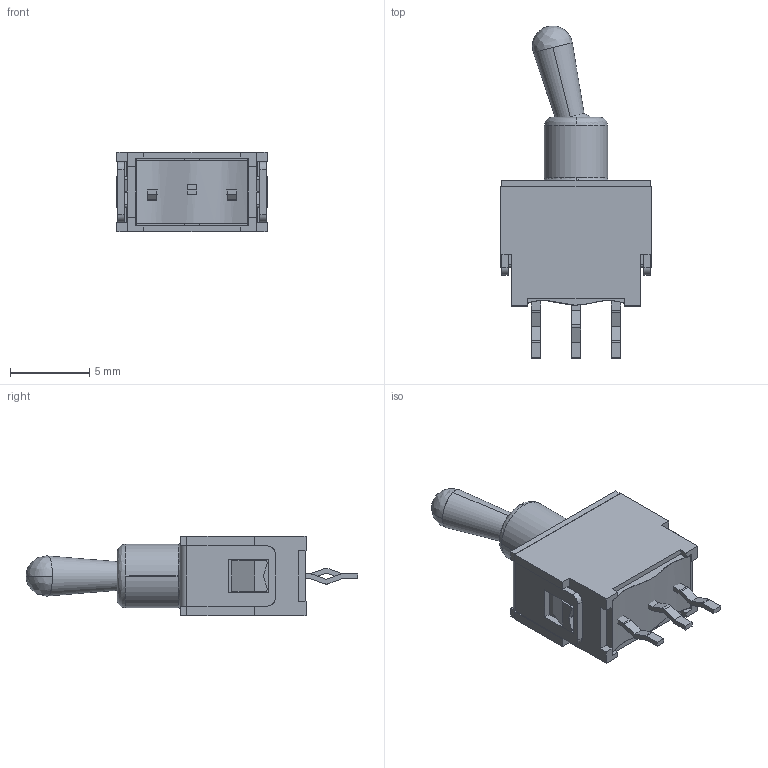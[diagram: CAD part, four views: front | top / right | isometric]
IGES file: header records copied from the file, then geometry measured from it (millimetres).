
Start section: SolidWorks IGES file using analytic representation for surfaces
Global section: file name: C:\Documents and Settings\990702\桌面\2TES1M22RES.IGS,1; native system: 5HSolidWorks 2007; preprocessor: SolidWorks 2007; author: 990702; date: 110315.105507; units: millimetre
Bounding box: 9.5 x 21.01 x 5 mm (x, y, z)
Surface area: 1086.3 mm2 (no closed solid volume)
Topology: 0 solids, 0 shells, 325 faces, 2528 edges, 2524 vertices
Faces by surface type: bspline 237, revolution 88
